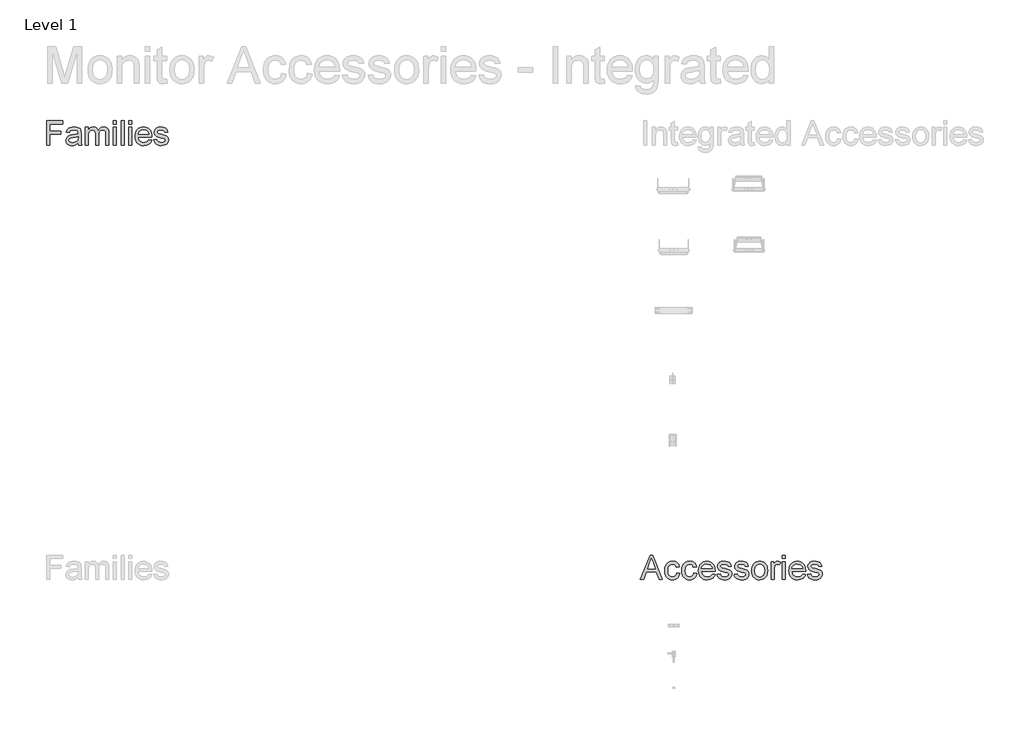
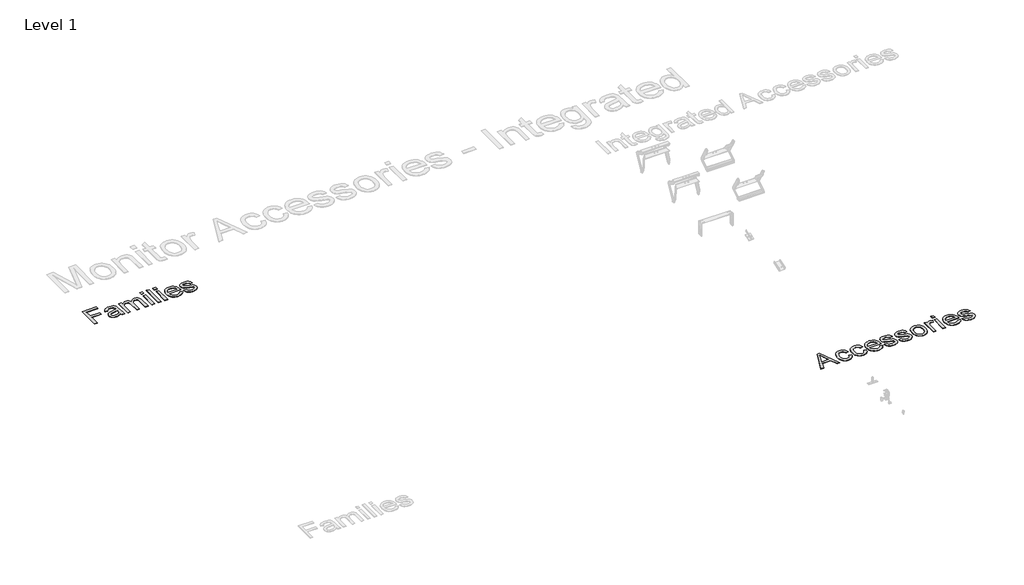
# One storey, part 2 of 7: 2 proxies.
"""IFC4 building model written with IfcOpenShell, lengths in millimetres."""

from ifc_helpers import new_model, si_unit, origin, origin_with_axes, place, context, project, spatial, polyline, outline, extrude, element, save

model = new_model("IFC4")

# Units and contexts
model_context = context("Model", 3, world=origin())
ifc_project = project(units=[si_unit("LENGTHUNIT", "METRE", prefix="MILLI")], contexts=[model_context])

# Site, building, storey
site = spatial("IfcSite", under=ifc_project)
building = spatial("IfcBuilding", under=site)
storey = spatial("IfcBuildingStorey", under=building, Name="Level 1", Elevation=0.0)

# Proxies
placement = place(None, origin())
element("IfcBuildingElementProxy", 1, Name="400mm Arial", ObjectType="400mm Arial", at=placement, inside=storey, context=model_context, shape_type="SweptSolid", body=[
    extrude(outline(polyline([(-21056.720891, 10851.3054836), (-21056.720891, 11243.0630593), (-20793.5087698, 11243.0630593), (-20793.5087698, 11194.0933624), (-21007.7511941, 11194.0933624), (-21007.7511941, 11077.7903321), (-20824.1148304, 11077.7903321), (-20824.1148304, 11028.8206351), (-21007.7511941, 11028.8206351), (-21007.7511941, 10851.3054836), (-21056.720891, 10851.3054836)])), origin_with_axes(), (0.0, 0.0, 1.0), 5.0),
    extrude(outline(polyline([(-20548.660285, 10888.0327563), (-20572.0571836, 10867.97144), (-20596.1475009, 10854.8443093), (-20621.4811893, 10847.5992809), (-20648.6082016, 10845.1842715), (-20670.4120309, 10846.6368638), (-20689.5318522, 10850.9946408), (-20705.9676654, 10858.2576024), (-20719.7194706, 10868.4257487), (-20730.5780466, 10880.8534831), (-20738.3341723, 10894.895209), (-20742.9878477, 10910.5509263), (-20744.5390729, 10927.8206351), (-20742.1957963, 10948.1210612), (-20735.1659668, 10966.5564305), (-20724.3223352, 10982.3376805), (-20710.5376524, 10994.6757487), (-20676.2493001, 11010.7439305), (-20633.879035, 11018.1085139), (-20583.8094327, 11025.855673), (-20548.9472168, 11034.9418472), (-20548.660285, 11045.8452563), (-20552.0317338, 11067.6998965), (-20562.1460804, 11081.9986654), (-20584.7658721, 11092.6151427), (-20616.2805501, 11096.1539684), (-20645.4519516, 11093.7987364), (-20665.8241107, 11086.7330404), (-20679.7163929, 11073.6656872), (-20689.4481638, 11053.3054836), (-20738.4178607, 11059.4266957), (-20729.9175056, 11086.2069987), (-20717.2327282, 11107.2486654), (-20699.1799346, 11123.3407582), (-20674.5755312, 11135.2723396), (-20644.4835568, 11142.660834), (-20609.9680501, 11145.1236654), (-20576.8632916, 11142.9477658), (-20550.6209857, 11136.4200669), (-20530.8346458, 11126.6046076), (-20517.097785, 11114.5654268), (-20507.9876997, 11099.6808387), (-20502.0816865, 11081.3291578), (-20499.690588, 11038.480673), (-20499.690588, 10977.5554836), (-20497.2038456, 10892.4801995), (-20487.4481638, 10851.3054836), (-20536.4178607, 10851.3054836), (-20544.2606638, 10868.3301048), (-20548.660285, 10888.0327563)]), holes=[polyline([(-20548.660285, 10985.9721502), (-20581.5618001, 10977.8185044), (-20627.6621789, 10970.9560518), (-20669.7933342, 10963.0176048), (-20680.7565208, 10957.5898112), (-20688.8743001, 10950.105673), (-20693.8956069, 10941.1390536), (-20695.5693759, 10931.2638169), (-20691.9229507, 10916.7020271), (-20680.9836751, 10904.7704457), (-20662.990659, 10896.8080877), (-20638.1830122, 10894.1539684), (-20611.8809289, 10897.0830641), (-20588.6394516, 10905.870351), (-20569.7975956, 10918.8181493), (-20556.6943759, 10934.228779), (-20550.8840066, 10950.105673), (-20548.9472168, 10972.103779), (-20548.660285, 10985.9721502)])]), origin_with_axes(), (0.0, 0.0, 1.0), 5.0),
    extrude(outline(polyline([(-20432.3572547, 10851.3054836), (-20432.3572547, 11139.0024533), (-20383.3875577, 11139.0024533), (-20383.3875577, 11091.6587033), (-20368.658391, 11113.405744), (-20349.720891, 11130.4423207), (-20327.2206543, 11141.4533292), (-20301.8032774, 11145.1236654), (-20274.5686657, 11141.3815963), (-20252.7379365, 11130.1553889), (-20236.4306448, 11112.1862838), (-20225.7663456, 11088.2155215), (-20207.9167954, 11113.1128344), (-20187.5565918, 11130.8966294), (-20164.6857348, 11141.5669064), (-20139.3042244, 11145.1236654), (-20119.7002057, 11143.6441732), (-20102.4932632, 11139.2056966), (-20087.683397, 11131.8082357), (-20075.2706069, 11121.4517904), (-20065.4581365, 11108.0168058), (-20058.4492291, 11091.3837269), (-20054.2438846, 11071.5525539), (-20052.8421032, 11048.5232866), (-20052.8421032, 10851.3054836), (-20101.8118001, 10851.3054836), (-20101.8118001, 11027.4816199), (-20106.3548872, 11068.369404), (-20112.7391202, 11079.6434334), (-20122.8056448, 11088.5024533), (-20135.7534431, 11094.2410896), (-20150.7814971, 11096.1539684), (-20177.3107348, 11091.2522165), (-20198.9382206, 11076.5469608), (-20207.3279874, 11065.2669537), (-20213.320678, 11051.03394), (-20218.1148304, 11013.7088927), (-20218.1148304, 10851.3054836), (-20267.0845274, 10851.3054836), (-20267.0845274, 11032.9333245), (-20269.9179791, 11060.6222449), (-20278.4183342, 11080.3727184), (-20293.3746552, 11092.2086559), (-20315.5760047, 11096.1539684), (-20334.4417717, 11093.5237601), (-20351.8250577, 11085.6331351), (-20366.1716486, 11072.6733813), (-20375.9273304, 11054.8357866), (-20381.5225009, 11030.0879173), (-20383.3875577, 10996.3973396), (-20383.3875577, 10851.3054836), (-20432.3572547, 10851.3054836)])), origin_with_axes(), (0.0, 0.0, 1.0), 5.0),
    extrude(outline(polyline([(-19979.3875577, 10851.3054836), (-19979.3875577, 11139.0024533), (-19930.4178607, 11139.0024533), (-19930.4178607, 10851.3054836), (-19979.3875577, 10851.3054836)])), origin_with_axes(), (0.0, 0.0, 1.0), 5.0),
    extrude(outline(polyline([(-19979.3875577, 11194.0933624), (-19979.3875577, 11243.0630593), (-19930.4178607, 11243.0630593), (-19930.4178607, 11194.0933624), (-19979.3875577, 11194.0933624)])), origin_with_axes(), (0.0, 0.0, 1.0), 5.0),
    extrude(outline(polyline([(-19856.9633153, 10851.3054836), (-19856.9633153, 11243.0630593), (-19807.9936183, 11243.0630593), (-19807.9936183, 10851.3054836), (-19856.9633153, 10851.3054836)])), origin_with_axes(), (0.0, 0.0, 1.0), 5.0),
    extrude(outline(polyline([(-19734.5390729, 10851.3054836), (-19734.5390729, 11139.0024533), (-19685.5693759, 11139.0024533), (-19685.5693759, 10851.3054836), (-19734.5390729, 10851.3054836)])), origin_with_axes(), (0.0, 0.0, 1.0), 5.0),
    extrude(outline(polyline([(-19734.5390729, 11194.0933624), (-19734.5390729, 11243.0630593), (-19685.5693759, 11243.0630593), (-19685.5693759, 11194.0933624), (-19734.5390729, 11194.0933624)])), origin_with_axes(), (0.0, 0.0, 1.0), 5.0),
    extrude(outline(polyline([(-19410.6886941, 10937.0024533), (-19362.6754365, 10930.8812411), (-19370.0370309, 10911.6508316), (-19379.975034, 10894.7039211), (-19392.4894457, 10880.0405096), (-19407.580266, 10867.6605972), (-19425.0920736, 10857.8272047), (-19444.8694469, 10850.8033529), (-19491.220891, 10845.1842715), (-19521.605775, 10847.6082475), (-19548.6789876, 10854.8801758), (-19572.4405288, 10867.0000563), (-19592.8903986, 10883.9678889), (-19609.3351784, 10905.3114317), (-19621.0814497, 10930.5584429), (-19628.1292125, 10959.7089223), (-19630.4784668, 10992.7628699), (-19628.1053015, 11026.937645), (-19620.9858058, 11057.0595082), (-19609.1199796, 11083.1284594), (-19592.5078229, 11105.1444987), (-19572.1117528, 11122.6353841), (-19548.8941865, 11135.1288737), (-19522.855124, 11142.6249675), (-19493.9945653, 11145.1236654), (-19466.0635461, 11142.6309452), (-19440.8045795, 11135.1527847), (-19418.2176654, 11122.6891839), (-19398.3028039, 11105.2401427), (-19382.0463231, 11083.2719253), (-19370.4345511, 11057.2507961), (-19363.4674879, 11027.1767549), (-19361.1451335, 10993.0498018), (-19361.4320653, 10979.8509381), (-19581.5087698, 10979.8509381), (-19578.6723292, 10960.3096858), (-19573.0323257, 10943.1953983), (-19564.5887592, 10928.5080759), (-19553.3416297, 10916.2477184), (-19524.9234242, 10899.6774059), (-19490.2644516, 10894.1539684), (-19464.2014782, 10896.7124438), (-19442.2511941, 10904.3878699), (-19424.4135994, 10917.6584665), (-19410.6886941, 10937.0024533)]), holes=[polyline([(-19581.5087698, 11028.8206351), (-19410.1148304, 11028.8206351), (-19416.7381732, 11054.6923207), (-19429.721838, 11073.199423), (-19443.076123, 11083.2420366), (-19458.2715539, 11090.4153321), (-19494.1858532, 11096.1539684), (-19527.1949677, 11091.5750148), (-19554.4893569, 11077.838154), (-19573.4627234, 11056.4258671), (-19581.5087698, 11028.8206351)])]), origin_with_axes(), (0.0, 0.0, 1.0), 5.0),
    extrude(outline(polyline([(-19330.5390729, 10937.0024533), (-19281.5693759, 10943.1236654), (-19273.8461278, 10922.1776427), (-19258.9017622, 10906.7789684), (-19236.6406354, 10897.3102184), (-19206.9671032, 10894.1539684), (-19177.6522357, 10897.0471976), (-19157.0409668, 10905.7268851), (-19144.8463645, 10918.3040631), (-19140.7814971, 10932.8897639), (-19144.8702755, 10945.371298), (-19157.1366107, 10954.8878699), (-19207.5409668, 10968.8518851), (-19281.2824441, 10992.8106919), (-19299.9449677, 11004.8498728), (-19313.4666297, 11020.7865442), (-19321.680053, 11039.6044893), (-19324.4178607, 11060.2874911), (-19322.2180501, 11079.2608576), (-19315.6186183, 11096.775654), (-19305.2173399, 11112.1384618), (-19291.6119895, 11124.6558624), (-19260.4798872, 11139.1459192), (-19218.3487319, 11145.1236654), (-19186.4753891, 11142.7206114), (-19158.7625577, 11135.5114495), (-19136.4775198, 11124.2015536), (-19120.8875577, 11109.496298), (-19110.5580122, 11090.3077326), (-19104.0542244, 11065.5479078), (-19153.0239213, 11059.4266957), (-19159.2049109, 11074.8373254), (-19171.4353797, 11086.4461086), (-19189.8348825, 11093.7270035), (-19214.5229744, 11096.1539684), (-19242.6422925, 11093.8346029), (-19261.3885047, 11086.8765063), (-19271.933249, 11076.8338927), (-19275.4481638, 11065.260976), (-19269.6138835, 11051.010029), (-19251.345891, 11040.2022639), (-19209.1669138, 11029.7770745), (-19137.2904933, 11006.7268851), (-19118.3051713, 10995.7039211), (-19103.9107585, 10980.6160896), (-19094.8365397, 10961.4155688), (-19091.8118001, 10938.0545366), (-19095.3625814, 10913.9044419), (-19106.0149251, 10891.1890063), (-19123.3623446, 10871.6895982), (-19146.9983532, 10857.1875858), (-19175.5480691, 10848.1851), (-19207.6366107, 10845.1842715), (-19233.9924938, 10846.630886), (-19257.0127944, 10850.9707298), (-19276.6975127, 10858.2038027), (-19293.0466486, 10868.3301048), (-19306.4009336, 10881.3018141), (-19317.1010994, 10897.0711086), (-19325.1471458, 10915.6379883), (-19330.5390729, 10937.0024533)])), origin_with_axes(), (0.0, 0.0, 1.0), 5.0),
])
element("IfcBuildingElementProxy", 2, Name="400mm Arial", ObjectType="400mm Arial", at=placement, inside=storey, context=model_context, shape_type="SweptSolid", body=[
    extrude(outline(polyline([(-11489.5198557, 3851.3054836), (-11333.1420148, 4243.0630593), (-11291.4412572, 4243.0630593), (-11135.0634163, 3851.3054836), (-11186.8067875, 3851.3054836), (-11231.6637951, 3973.729726), (-11393.0151209, 3973.729726), (-11437.7764845, 3851.3054836), (-11489.5198557, 3851.3054836)]), holes=[polyline([(-11375.0340603, 4022.699423), (-11249.5492118, 4022.699423), (-11284.8418254, 4119.0128699), (-11312.291636, 4194.0933624), (-11336.6808406, 4127.4295366), (-11375.0340603, 4022.699423)])]), origin_with_axes(), (0.0, 0.0, 1.0), 5.0),
    extrude(outline(polyline([(-10905.23103, 3955.3660896), (-10856.261333, 3949.2448775), (-10861.5875049, 3926.1378995), (-10869.9145054, 3905.6910186), (-10881.2423344, 3887.9042348), (-10895.5709921, 3872.777548), (-10912.296726, 3860.7054895), (-10930.8157838, 3852.0825906), (-10951.1281654, 3846.9088512), (-10973.2338709, 3845.1842715), (-11000.6986259, 3847.5903143), (-11025.3239514, 3854.8084429), (-11047.1098474, 3866.8386571), (-11066.0563141, 3883.6809571), (-11081.392222, 3905.0185222), (-11092.3464419, 3930.5345319), (-11098.9189739, 3960.2289862), (-11101.1098179, 3994.1018851), (-11097.3677487, 4037.679655), (-11086.1415413, 4075.4470555), (-11067.2518633, 4105.9455167), (-11040.5193822, 4127.7164684), (-11008.53844, 4140.7718661), (-10973.9033785, 4145.1236654), (-10952.1772598, 4143.6292288), (-10932.5254192, 4139.1459192), (-10914.9478564, 4131.6737364), (-10899.4445716, 4121.2126805), (-10886.2785856, 4108.0018614), (-10875.7129192, 4092.2803889), (-10867.7475723, 4074.0482629), (-10862.3825451, 4053.3054836), (-10911.3522421, 4047.1842715), (-10920.235173, 4068.5487364), (-10934.0676777, 4083.8637222), (-10952.0846048, 4093.0814069), (-10973.5208027, 4096.1539684), (-10990.1598593, 4094.6415986), (-11005.1669911, 4090.1044893), (-11018.5421983, 4082.5426403), (-11030.2854807, 4071.9560518), (-11039.8468858, 4058.099636), (-11046.6764608, 4040.7283055), (-11052.1401209, 3995.4409002), (-11046.7960158, 3949.5437648), (-11040.1158844, 3932.0558683), (-11030.7637004, 3918.2084192), (-11019.2535501, 3907.684597), (-11006.0995196, 3900.1675811), (-10991.3016088, 3895.6573716), (-10974.8598179, 3894.1539684), (-10949.5022184, 3897.907993), (-10928.7116171, 3909.1700669), (-10913.5879192, 3928.2271218), (-10905.23103, 3955.3660896)])), origin_with_axes(), (0.0, 0.0, 1.0), 5.0),
    extrude(outline(polyline([(-10629.7764845, 3955.3660896), (-10580.8067875, 3949.2448775), (-10586.1329594, 3926.1378995), (-10594.4599599, 3905.6910186), (-10605.787789, 3887.9042348), (-10620.1164466, 3872.777548), (-10636.8421805, 3860.7054895), (-10655.3612383, 3852.0825906), (-10675.6736199, 3846.9088512), (-10697.7793254, 3845.1842715), (-10725.2440804, 3847.5903143), (-10749.8694059, 3854.8084429), (-10771.655302, 3866.8386571), (-10790.6017686, 3883.6809571), (-10805.9376765, 3905.0185222), (-10816.8918964, 3930.5345319), (-10823.4644284, 3960.2289862), (-10825.6552724, 3994.1018851), (-10821.9132033, 4037.679655), (-10810.6869959, 4075.4470555), (-10791.7973179, 4105.9455167), (-10765.0648368, 4127.7164684), (-10733.0838946, 4140.7718661), (-10698.448833, 4145.1236654), (-10676.7227144, 4143.6292288), (-10657.0708737, 4139.1459192), (-10639.493311, 4131.6737364), (-10623.9900262, 4121.2126805), (-10610.8240402, 4108.0018614), (-10600.2583737, 4092.2803889), (-10592.2930269, 4074.0482629), (-10586.9279997, 4053.3054836), (-10635.8976966, 4047.1842715), (-10644.7806275, 4068.5487364), (-10658.6131322, 4083.8637222), (-10676.6300593, 4093.0814069), (-10698.0662572, 4096.1539684), (-10714.7053138, 4094.6415986), (-10729.7124457, 4090.1044893), (-10743.0876528, 4082.5426403), (-10754.8309353, 4071.9560518), (-10764.3923403, 4058.099636), (-10771.2219154, 4040.7283055), (-10776.6855754, 3995.4409002), (-10771.3414703, 3949.5437648), (-10764.6613389, 3932.0558683), (-10755.309155, 3918.2084192), (-10743.7990046, 3907.684597), (-10730.6449741, 3900.1675811), (-10715.8470634, 3895.6573716), (-10699.4052724, 3894.1539684), (-10674.047673, 3897.907993), (-10653.2570716, 3909.1700669), (-10638.1333737, 3928.2271218), (-10629.7764845, 3955.3660896)])), origin_with_axes(), (0.0, 0.0, 1.0), 5.0),
    extrude(outline(polyline([(-10336.5321663, 3937.0024533), (-10288.5189088, 3930.8812411), (-10295.8805032, 3911.6508316), (-10305.8185063, 3894.7039211), (-10318.332918, 3880.0405096), (-10333.4237383, 3867.6605972), (-10350.9355458, 3857.8272047), (-10370.7129192, 3850.8033529), (-10417.0643633, 3845.1842715), (-10447.4492473, 3847.6082475), (-10474.5224599, 3854.8801758), (-10498.2840011, 3867.0000563), (-10518.7338709, 3883.9678889), (-10535.1786507, 3905.3114317), (-10546.924922, 3930.5584429), (-10553.9726848, 3959.7089223), (-10556.3219391, 3992.7628699), (-10553.9487738, 4026.937645), (-10546.8292781, 4057.0595082), (-10534.9634518, 4083.1284594), (-10518.3512951, 4105.1444987), (-10497.955225, 4122.6353841), (-10474.7376588, 4135.1288737), (-10448.6985963, 4142.6249675), (-10419.8380375, 4145.1236654), (-10391.9070184, 4142.6309452), (-10366.6480518, 4135.1527847), (-10344.0611377, 4122.6891839), (-10324.1462762, 4105.2401427), (-10307.8897954, 4083.2719253), (-10296.2780233, 4057.2507961), (-10289.3109601, 4027.1767549), (-10286.9886057, 3993.0498018), (-10287.2755375, 3979.8509381), (-10507.3522421, 3979.8509381), (-10504.5158015, 3960.3096858), (-10498.875798, 3943.1953983), (-10490.4322314, 3928.5080759), (-10479.1851019, 3916.2477184), (-10450.7668964, 3899.6774059), (-10416.1079239, 3894.1539684), (-10390.0449504, 3896.7124438), (-10368.0946663, 3904.3878699), (-10350.2570716, 3917.6584665), (-10336.5321663, 3937.0024533)]), holes=[polyline([(-10507.3522421, 4028.8206351), (-10335.9583027, 4028.8206351), (-10342.5816455, 4054.6923207), (-10355.5653103, 4073.199423), (-10368.9195953, 4083.2420366), (-10384.1150262, 4090.4153321), (-10420.0293254, 4096.1539684), (-10453.03844, 4091.5750148), (-10480.3328292, 4077.838154), (-10499.3061957, 4056.4258671), (-10507.3522421, 4028.8206351)])]), origin_with_axes(), (0.0, 0.0, 1.0), 5.0),
    extrude(outline(polyline([(-10256.3825451, 3937.0024533), (-10207.4128482, 3943.1236654), (-10199.6896, 3922.1776427), (-10184.7452345, 3906.7789684), (-10162.4841076, 3897.3102184), (-10132.8105754, 3894.1539684), (-10103.495708, 3897.0471976), (-10082.8844391, 3905.7268851), (-10070.6898368, 3918.3040631), (-10066.6249694, 3932.8897639), (-10070.7137478, 3945.371298), (-10082.980083, 3954.8878699), (-10133.3844391, 3968.8518851), (-10207.1259163, 3992.8106919), (-10225.78844, 4004.8498728), (-10239.3101019, 4020.7865442), (-10247.5235252, 4039.6044893), (-10250.261333, 4060.2874911), (-10248.0615224, 4079.2608576), (-10241.4620906, 4096.775654), (-10231.0608122, 4112.1384618), (-10217.4554618, 4124.6558624), (-10186.3233595, 4139.1459192), (-10144.1922042, 4145.1236654), (-10112.3188614, 4142.7206114), (-10084.60603, 4135.5114495), (-10062.3209921, 4124.2015536), (-10046.73103, 4109.496298), (-10036.4014845, 4090.3077326), (-10029.8976966, 4065.5479078), (-10078.8673936, 4059.4266957), (-10085.0483832, 4074.8373254), (-10097.2788519, 4086.4461086), (-10115.6783548, 4093.7270035), (-10140.3664466, 4096.1539684), (-10168.4857648, 4093.8346029), (-10187.2319769, 4086.8765063), (-10197.7767213, 4076.8338927), (-10201.291636, 4065.260976), (-10195.4573557, 4051.010029), (-10177.1893633, 4040.2022639), (-10135.010386, 4029.7770745), (-10063.1339656, 4006.7268851), (-10044.1486436, 3995.7039211), (-10029.7542307, 3980.6160896), (-10020.680012, 3961.4155688), (-10017.6552724, 3938.0545366), (-10021.2060536, 3913.9044419), (-10031.8583974, 3891.1890063), (-10049.2058169, 3871.6895982), (-10072.8418254, 3857.1875858), (-10101.3915413, 3848.1851), (-10133.480083, 3845.1842715), (-10159.8359661, 3846.630886), (-10182.8562667, 3850.9707298), (-10202.540985, 3858.2038027), (-10218.8901209, 3868.3301048), (-10232.2444059, 3881.3018141), (-10242.9445716, 3897.0711086), (-10250.990618, 3915.6379883), (-10256.3825451, 3937.0024533)])), origin_with_axes(), (0.0, 0.0, 1.0), 5.0),
    extrude(outline(polyline([(-9980.9279997, 3937.0024533), (-9931.9583027, 3943.1236654), (-9924.2350546, 3922.1776427), (-9909.2906891, 3906.7789684), (-9887.0295622, 3897.3102184), (-9857.35603, 3894.1539684), (-9828.0411625, 3897.0471976), (-9807.4298936, 3905.7268851), (-9795.2352913, 3918.3040631), (-9791.1704239, 3932.8897639), (-9795.2592023, 3945.371298), (-9807.5255375, 3954.8878699), (-9857.9298936, 3968.8518851), (-9931.6713709, 3992.8106919), (-9950.3338946, 4004.8498728), (-9963.8555565, 4020.7865442), (-9972.0689798, 4039.6044893), (-9974.8067875, 4060.2874911), (-9972.6069769, 4079.2608576), (-9966.0075451, 4096.775654), (-9955.6062667, 4112.1384618), (-9942.0009163, 4124.6558624), (-9910.8688141, 4139.1459192), (-9868.7376588, 4145.1236654), (-9836.864316, 4142.7206114), (-9809.1514845, 4135.5114495), (-9786.8664466, 4124.2015536), (-9771.2764845, 4109.496298), (-9760.9469391, 4090.3077326), (-9754.4431512, 4065.5479078), (-9803.4128482, 4059.4266957), (-9809.5938377, 4074.8373254), (-9821.8243065, 4086.4461086), (-9840.2238093, 4093.7270035), (-9864.9119012, 4096.1539684), (-9893.0312194, 4093.8346029), (-9911.7774315, 4086.8765063), (-9922.3221758, 4076.8338927), (-9925.8370906, 4065.260976), (-9920.0028103, 4051.010029), (-9901.7348179, 4040.2022639), (-9859.5558406, 4029.7770745), (-9787.6794201, 4006.7268851), (-9768.6940982, 3995.7039211), (-9754.2996853, 3980.6160896), (-9745.2254665, 3961.4155688), (-9742.2007269, 3938.0545366), (-9745.7515082, 3913.9044419), (-9756.4038519, 3891.1890063), (-9773.7512714, 3871.6895982), (-9797.38728, 3857.1875858), (-9825.9369959, 3848.1851), (-9858.0255375, 3845.1842715), (-9884.3814206, 3846.630886), (-9907.4017213, 3850.9707298), (-9927.0864395, 3858.2038027), (-9943.4355754, 3868.3301048), (-9956.7898605, 3881.3018141), (-9967.4900262, 3897.0711086), (-9975.5360726, 3915.6379883), (-9980.9279997, 3937.0024533)])), origin_with_axes(), (0.0, 0.0, 1.0), 5.0),
    extrude(outline(polyline([(-9699.3522421, 3995.1539684), (-9696.7041005, 4032.4132606), (-9688.7596758, 4064.5197355), (-9675.5189679, 4091.4733931), (-9656.9819769, 4113.2742336), (-9638.3194533, 4127.20836), (-9617.7201398, 4137.1613074), (-9595.1840366, 4143.1330759), (-9570.7111436, 4145.1236654), (-9543.6947196, 4142.6996893), (-9519.2666597, 4135.427761), (-9497.4269639, 4123.3078806), (-9478.1756322, 4106.340048), (-9462.4631263, 4085.0981268), (-9451.2399078, 4060.1559807), (-9444.5059767, 4031.5136098), (-9442.261333, 3999.1710139), (-9446.2305565, 3949.6991862), (-9458.1382269, 3912.0393851), (-9477.6376351, 3883.8363785), (-9504.3820716, 3862.7349343), (-9536.147815, 3849.5719372), (-9570.7111436, 3845.1842715), (-9598.1220989, 3847.5992809), (-9622.7773131, 3854.8443093), (-9644.6767864, 3866.9193567), (-9663.8205186, 3883.824423), (-9679.3656476, 3905.2725764), (-9690.4693112, 3930.9768851), (-9697.1315094, 3960.9373491), (-9699.3522421, 3995.1539684)]), holes=[polyline([(-9650.3825451, 3995.2496124), (-9648.9658193, 3971.4970378), (-9644.7156417, 3950.9306019), (-9637.6320125, 3933.5503048), (-9627.7149315, 3919.3561465), (-9615.6518396, 3908.3301936), (-9602.1301777, 3900.4545129), (-9587.1499457, 3895.7291045), (-9570.7111436, 3894.1539684), (-9554.35603, 3895.7380712), (-9539.4355754, 3900.4903794), (-9525.94978, 3908.4108931), (-9513.8986436, 3919.4996124), (-9503.9815626, 3933.8342478), (-9496.8979334, 3951.4925101), (-9492.6477558, 3972.4743993), (-9491.23103, 3996.7799154), (-9492.6567224, 4019.7792939), (-9496.9337999, 4039.8077326), (-9504.0622622, 4056.8652314), (-9514.0421095, 4070.9517904), (-9526.138079, 4081.9777433), (-9539.6149078, 4089.8534239), (-9554.472596, 4094.5788323), (-9570.7111436, 4096.1539684), (-9587.1499457, 4094.58481), (-9602.1301777, 4089.8773349), (-9615.6518396, 4082.031543), (-9627.7149315, 4071.0474343), (-9637.6320125, 4056.8951202), (-9644.7156417, 4039.5447118), (-9648.9658193, 4018.9962092), (-9650.3825451, 3995.2496124)])]), origin_with_axes(), (0.0, 0.0, 1.0), 5.0),
    extrude(outline(polyline([(-9387.1704239, 3851.3054836), (-9387.1704239, 4139.0024533), (-9344.3219391, 4139.0024533), (-9344.3219391, 4096.4409002), (-9328.4928671, 4121.1170366), (-9313.9071663, 4135.6549154), (-9299.2736436, 4142.7564779), (-9283.3011057, 4145.1236654), (-9258.9119012, 4141.3457298), (-9234.1401209, 4130.011923), (-9250.4952345, 4086.1113548), (-9267.7111436, 4093.643315), (-9284.9270527, 4096.1539684), (-9299.5486199, 4093.738959), (-9312.6159732, 4086.4939305), (-9323.172673, 4074.9688358), (-9330.26228, 4059.7136275), (-9336.2161152, 4032.3594608), (-9338.2007269, 4002.5185518), (-9338.2007269, 3851.3054836), (-9387.1704239, 3851.3054836)])), origin_with_axes(), (0.0, 0.0, 1.0), 5.0),
    extrude(outline(polyline([(-9203.5340603, 3851.3054836), (-9203.5340603, 4139.0024533), (-9154.5643633, 4139.0024533), (-9154.5643633, 3851.3054836), (-9203.5340603, 3851.3054836)])), origin_with_axes(), (0.0, 0.0, 1.0), 5.0),
    extrude(outline(polyline([(-9203.5340603, 4194.0933624), (-9203.5340603, 4243.0630593), (-9154.5643633, 4243.0630593), (-9154.5643633, 4194.0933624), (-9203.5340603, 4194.0933624)])), origin_with_axes(), (0.0, 0.0, 1.0), 5.0),
    extrude(outline(polyline([(-8879.6836815, 3937.0024533), (-8831.6704239, 3930.8812411), (-8839.0320184, 3911.6508316), (-8848.9700214, 3894.7039211), (-8861.4844331, 3880.0405096), (-8876.5752535, 3867.6605972), (-8894.087061, 3857.8272047), (-8913.8644343, 3850.8033529), (-8960.2158785, 3845.1842715), (-8990.6007625, 3847.6082475), (-9017.673975, 3854.8801758), (-9041.4355162, 3867.0000563), (-9061.885386, 3883.9678889), (-9078.3301659, 3905.3114317), (-9090.0764372, 3930.5584429), (-9097.1242, 3959.7089223), (-9099.4734542, 3992.7628699), (-9097.100289, 4026.937645), (-9089.9807932, 4057.0595082), (-9078.114967, 4083.1284594), (-9061.5028103, 4105.1444987), (-9041.1067402, 4122.6353841), (-9017.8891739, 4135.1288737), (-8991.8501114, 4142.6249675), (-8962.9895527, 4145.1236654), (-8935.0585335, 4142.6309452), (-8909.7995669, 4135.1527847), (-8887.2126528, 4122.6891839), (-8867.2977913, 4105.2401427), (-8851.0413105, 4083.2719253), (-8839.4295385, 4057.2507961), (-8832.4624753, 4027.1767549), (-8830.1401209, 3993.0498018), (-8830.4270527, 3979.8509381), (-9050.5037572, 3979.8509381), (-9047.6673167, 3960.3096858), (-9042.0273131, 3943.1953983), (-9033.5837466, 3928.5080759), (-9022.3366171, 3916.2477184), (-8993.9184116, 3899.6774059), (-8959.2594391, 3894.1539684), (-8933.1964656, 3896.7124438), (-8911.2461815, 3904.3878699), (-8893.4085868, 3917.6584665), (-8879.6836815, 3937.0024533)]), holes=[polyline([(-9050.5037572, 4028.8206351), (-8879.1098179, 4028.8206351), (-8885.7331607, 4054.6923207), (-8898.7168254, 4073.199423), (-8912.0711105, 4083.2420366), (-8927.2665413, 4090.4153321), (-8963.1808406, 4096.1539684), (-8996.1899552, 4091.5750148), (-9023.4843444, 4077.838154), (-9042.4577108, 4056.4258671), (-9050.5037572, 4028.8206351)])]), origin_with_axes(), (0.0, 0.0, 1.0), 5.0),
    extrude(outline(polyline([(-8799.5340603, 3937.0024533), (-8750.5643633, 3943.1236654), (-8742.8411152, 3922.1776427), (-8727.8967497, 3906.7789684), (-8705.6356228, 3897.3102184), (-8675.9620906, 3894.1539684), (-8646.6472232, 3897.0471976), (-8626.0359542, 3905.7268851), (-8613.8413519, 3918.3040631), (-8609.7764845, 3932.8897639), (-8613.8652629, 3945.371298), (-8626.1315982, 3954.8878699), (-8676.5359542, 3968.8518851), (-8750.2774315, 3992.8106919), (-8768.9399552, 4004.8498728), (-8782.4616171, 4020.7865442), (-8790.6750404, 4039.6044893), (-8793.4128482, 4060.2874911), (-8791.2130375, 4079.2608576), (-8784.6136057, 4096.775654), (-8774.2123273, 4112.1384618), (-8760.6069769, 4124.6558624), (-8729.4748747, 4139.1459192), (-8687.3437194, 4145.1236654), (-8655.4703766, 4142.7206114), (-8627.7575451, 4135.5114495), (-8605.4725072, 4124.2015536), (-8589.8825451, 4109.496298), (-8579.5529997, 4090.3077326), (-8573.0492118, 4065.5479078), (-8622.0189088, 4059.4266957), (-8628.1998983, 4074.8373254), (-8640.4303671, 4086.4461086), (-8658.8298699, 4093.7270035), (-8683.5179618, 4096.1539684), (-8711.63728, 4093.8346029), (-8730.3834921, 4086.8765063), (-8740.9282364, 4076.8338927), (-8744.4431512, 4065.260976), (-8738.6088709, 4051.010029), (-8720.3408785, 4040.2022639), (-8678.1619012, 4029.7770745), (-8606.2854807, 4006.7268851), (-8587.3001588, 3995.7039211), (-8572.9057459, 3980.6160896), (-8563.8315271, 3961.4155688), (-8560.8067875, 3938.0545366), (-8564.3575688, 3913.9044419), (-8575.0099125, 3891.1890063), (-8592.3573321, 3871.6895982), (-8615.9933406, 3857.1875858), (-8644.5430565, 3848.1851), (-8676.6315982, 3845.1842715), (-8702.9874812, 3846.630886), (-8726.0077819, 3850.9707298), (-8745.6925001, 3858.2038027), (-8762.041636, 3868.3301048), (-8775.3959211, 3881.3018141), (-8786.0960868, 3897.0711086), (-8794.1421332, 3915.6379883), (-8799.5340603, 3937.0024533)])), origin_with_axes(), (0.0, 0.0, 1.0), 5.0),
])

save(model, "model.ifc")
